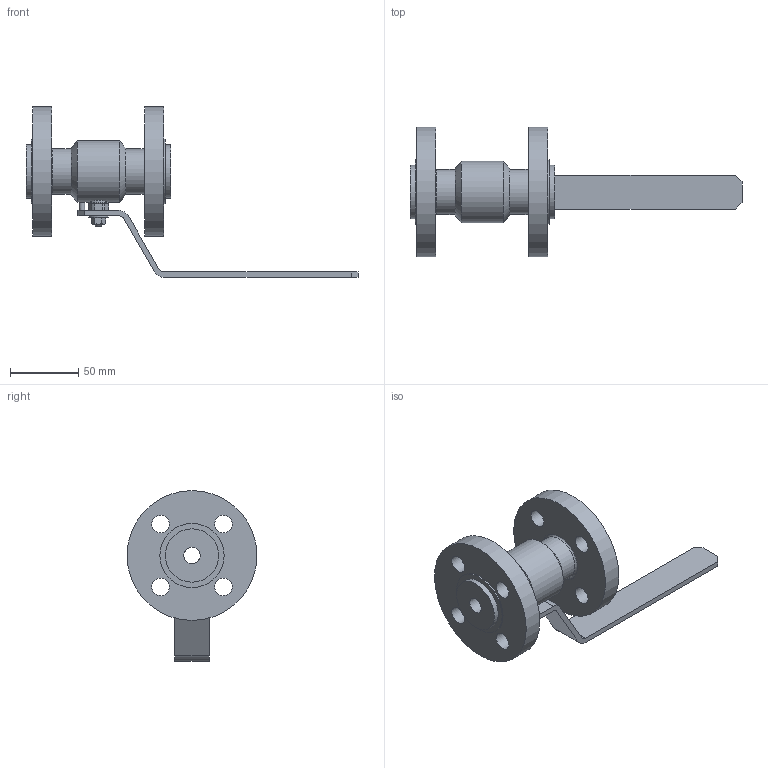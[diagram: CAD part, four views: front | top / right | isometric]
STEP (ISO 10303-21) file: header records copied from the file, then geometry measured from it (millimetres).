
FILE_DESCRIPTION(('STEP AP203'), '1');
FILE_NAME('ZARD 015.040.22.P.stp', '2013-12-05T09:00:37', ('1'), ('1'), 'ASCON STEP Converter 1.3', 'Kompas 3D', '');
FILE_SCHEMA(('CONFIG_CONTROL_DESIGN','SUPPORT_RESOURCE_SCHEMA'));
Length unit declared in the file: millimetre
Products named in the file (1): 60
Bounding box: 243 x 95 x 125 mm (x, y, z)
Volume: 285734.9 mm3; surface area: 68971.3 mm2
Topology: 1 solids, 3 shells, 161 faces, 371 edges, 230 vertices
Faces by surface type: plane 89, cylinder 47, cone 22, torus 2, bspline 1
Full cylindrical faces by diameter (mm): 4 x2, 6 x2, 8.673 x1, 9 x1, 10 x1, 10.1 x1, 12 x2, 13 x8, 14.2 x1, 15.8 x1, 16 x3, 25.4 x1, 27 x1, 33 x2, 39 x2, 45 x1, 47 x2, 95 x2
Entity records: 5691 total; most frequent: CARTESIAN_POINT 1829, DIRECTION 822, ORIENTED_EDGE 740, EDGE_CURVE 370, AXIS2_PLACEMENT_3D 316, VERTEX_POINT 230, EDGE_LOOP 206, LINE 190
